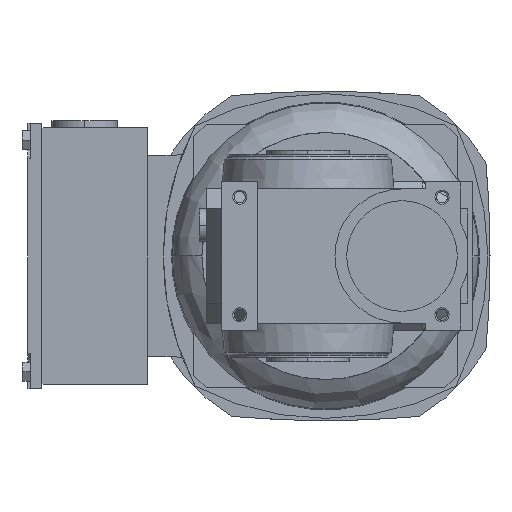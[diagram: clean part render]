
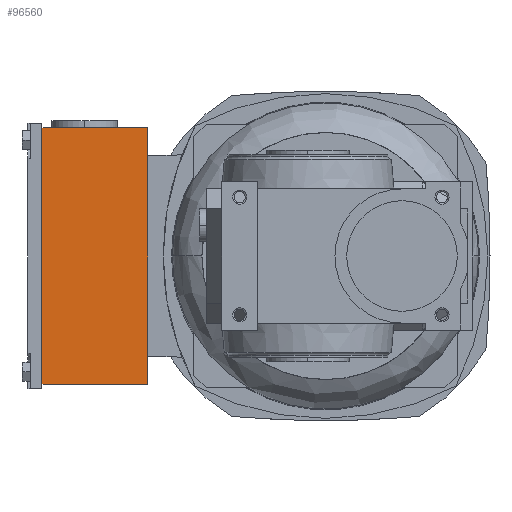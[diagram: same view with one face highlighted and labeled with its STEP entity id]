
A CAD part, left-side view. The second image highlights one B-rep face of the part: STEP entity #96560.
In plain terms, the highlighted planar face has unit normal (-1, 0, 0) as drawn and (0, 0, -1) by its records, which use the part's own axes.
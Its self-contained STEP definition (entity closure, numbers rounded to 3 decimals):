
#77920=CARTESIAN_POINT('',(31.,105.,-54.5));
#77930=VERTEX_POINT('',#77920);
#77960=CARTESIAN_POINT('',(84.818,105.,-54.5));
#77970=DIRECTION('',(1.,0.,0.));
#77980=VECTOR('',#77970,1.);
#77990=LINE('',#77960,#77980);
#78000=CARTESIAN_POINT('',(140.,105.,-54.5));
#78010=VERTEX_POINT('',#78000);
#78020=EDGE_CURVE('',#77930,#78010,#77990,.T.);
#96200=CARTESIAN_POINT('',(31.,60.,-54.5));
#96210=VERTEX_POINT('',#96200);
#96240=CARTESIAN_POINT('',(31.,105.,-54.5));
#96250=DIRECTION('',(0.,-1.,0.));
#96260=VECTOR('',#96250,1.);
#96270=LINE('',#96240,#96260);
#96280=EDGE_CURVE('',#77930,#96210,#96270,.T.);
#96330=CARTESIAN_POINT('',(140.,105.,-54.5));
#96340=DIRECTION('',(0.,0.,-1.));
#96350=DIRECTION('',(-1.,0.,0.));
#96360=AXIS2_PLACEMENT_3D('',#96330,#96340,#96350);
#96370=PLANE('',#96360);
#96380=ORIENTED_EDGE('',*,*,#96280,.F.);
#96390=CARTESIAN_POINT('',(140.,60.,-54.5));
#96400=DIRECTION('',(-1.,0.,0.));
#96410=VECTOR('',#96400,1.);
#96420=LINE('',#96390,#96410);
#96430=CARTESIAN_POINT('',(140.,60.,-54.5));
#96440=VERTEX_POINT('',#96430);
#96450=EDGE_CURVE('',#96440,#96210,#96420,.T.);
#96460=ORIENTED_EDGE('',*,*,#96450,.T.);
#96470=CARTESIAN_POINT('',(140.,105.,-54.5));
#96480=DIRECTION('',(0.,1.,0.));
#96490=VECTOR('',#96480,1.);
#96500=LINE('',#96470,#96490);
#96510=EDGE_CURVE('',#96440,#78010,#96500,.T.);
#96520=ORIENTED_EDGE('',*,*,#96510,.F.);
#96530=ORIENTED_EDGE('',*,*,#78020,.T.);
#96540=EDGE_LOOP('',(#96530,#96520,#96460,#96380));
#96550=FACE_OUTER_BOUND('',#96540,.T.);
#96560=ADVANCED_FACE('',(#96550),#96370,.T.);
